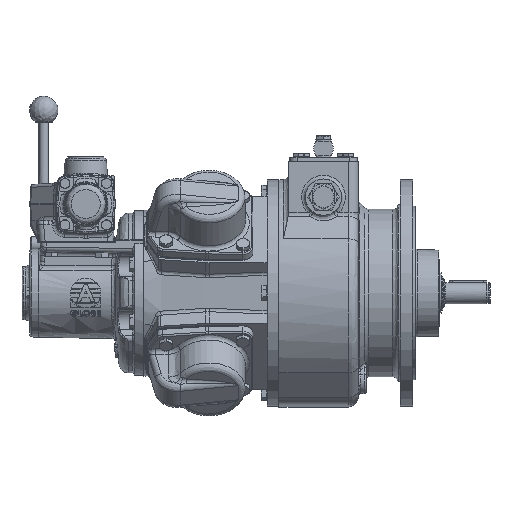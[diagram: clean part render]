
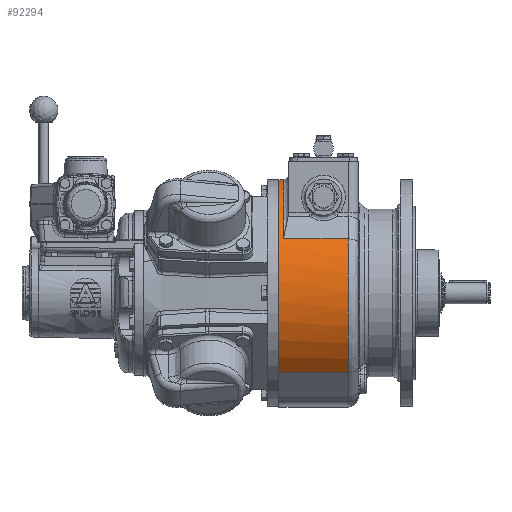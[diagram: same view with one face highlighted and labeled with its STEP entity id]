
A CAD part, top view. The second image highlights one B-rep face of the part: STEP entity #92294.
In plain terms, the highlighted cylindrical face has radius 151 mm (diameter 302 mm), a partial arc.
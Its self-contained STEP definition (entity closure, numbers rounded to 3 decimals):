
#1963 = CIRCLE ( 'NONE', #88761, 151. ) ;
#5958 = CIRCLE ( 'NONE', #80027, 151. ) ;
#11177 = DIRECTION ( 'NONE',  ( -1., 0., 0. ) ) ;
#12184 = CARTESIAN_POINT ( 'NONE',  ( 184.675, 0., 0. ) ) ;
#17144 = CIRCLE ( 'NONE', #184569, 151. ) ;
#18170 = CARTESIAN_POINT ( 'NONE',  ( 98.675, 0., 0. ) ) ;
#18568 = VERTEX_POINT ( 'NONE', #77731 ) ;
#19630 = EDGE_CURVE ( 'NONE', #57252, #28346, #117195, .T. ) ;
#19840 = DIRECTION ( 'NONE',  ( 0., -1., 0. ) ) ;
#21843 = EDGE_CURVE ( 'NONE', #18568, #57252, #183738, .T. ) ;
#22541 = CARTESIAN_POINT ( 'NONE',  ( 92.675, -105.718, -107.818 ) ) ;
#23396 = EDGE_LOOP ( 'NONE', ( #42318, #31428, #191029, #166922, #47638, #118590, #58545, #38815 ) ) ;
#26615 = CARTESIAN_POINT ( 'NONE',  ( 114.675, 71.651, 132.918 ) ) ;
#27842 = CARTESIAN_POINT ( 'NONE',  ( 114.675, 71.651, -132.918 ) ) ;
#28346 = VERTEX_POINT ( 'NONE', #46436 ) ;
#30412 = AXIS2_PLACEMENT_3D ( 'NONE', #12184, #11177, #69656 ) ;
#30432 = CARTESIAN_POINT ( 'NONE',  ( 114.675, 0., 0. ) ) ;
#31428 = ORIENTED_EDGE ( 'NONE', *, *, #19630, .T. ) ;
#32369 = EDGE_CURVE ( 'NONE', #126760, #121110, #132578, .T. ) ;
#34941 = CARTESIAN_POINT ( 'NONE',  ( 92.675, 0., 0. ) ) ;
#35826 = CARTESIAN_POINT ( 'NONE',  ( 184.675, 0., 0. ) ) ;
#38815 = ORIENTED_EDGE ( 'NONE', *, *, #107172, .F. ) ;
#40824 = CARTESIAN_POINT ( 'NONE',  ( 98.675, 71.651, 132.918 ) ) ;
#42318 = ORIENTED_EDGE ( 'NONE', *, *, #21843, .T. ) ;
#45739 = EDGE_CURVE ( 'NONE', #69470, #137822, #114919, .T. ) ;
#46436 = CARTESIAN_POINT ( 'NONE',  ( 184.675, 71.651, 132.918 ) ) ;
#47638 = ORIENTED_EDGE ( 'NONE', *, *, #32369, .T. ) ;
#49421 = VECTOR ( 'NONE', #106055, 1000. ) ;
#53857 = DIRECTION ( 'NONE',  ( -1., 0., 0. ) ) ;
#57252 = VERTEX_POINT ( 'NONE', #131779 ) ;
#58545 = ORIENTED_EDGE ( 'NONE', *, *, #45739, .F. ) ;
#65384 = VERTEX_POINT ( 'NONE', #40824 ) ;
#69470 = VERTEX_POINT ( 'NONE', #22541 ) ;
#69656 = DIRECTION ( 'NONE',  ( 0., 0., -1. ) ) ;
#77554 = DIRECTION ( 'NONE',  ( 0., 0., 1. ) ) ;
#77731 = CARTESIAN_POINT ( 'NONE',  ( 92.675, -105.718, 107.818 ) ) ;
#80027 = AXIS2_PLACEMENT_3D ( 'NONE', #35826, #53857, #115307 ) ;
#82467 = VECTOR ( 'NONE', #102146, 1000. ) ;
#88761 = AXIS2_PLACEMENT_3D ( 'NONE', #34941, #157832, #19840 ) ;
#92294 = ADVANCED_FACE ( 'NONE', ( #198660 ), #168385, .T. ) ;
#93559 = AXIS2_PLACEMENT_3D ( 'NONE', #30432, #183603, #136138 ) ;
#95599 = DIRECTION ( 'NONE',  ( -1., 0., 0. ) ) ;
#102146 = DIRECTION ( 'NONE',  ( 1., 0., 0. ) ) ;
#106055 = DIRECTION ( 'NONE',  ( 1., 0., 0. ) ) ;
#106431 = VECTOR ( 'NONE', #193202, 1000. ) ;
#107172 = EDGE_CURVE ( 'NONE', #18568, #69470, #1963, .T. ) ;
#114919 = LINE ( 'NONE', #174427, #131979 ) ;
#115307 = DIRECTION ( 'NONE',  ( 0., 0., -1. ) ) ;
#117195 = CIRCLE ( 'NONE', #30412, 151. ) ;
#118357 = CARTESIAN_POINT ( 'NONE',  ( 184.675, 71.651, -132.918 ) ) ;
#118590 = ORIENTED_EDGE ( 'NONE', *, *, #147011, .T. ) ;
#119606 = DIRECTION ( 'NONE',  ( 1., 0., 0. ) ) ;
#121110 = VERTEX_POINT ( 'NONE', #118357 ) ;
#126760 = VERTEX_POINT ( 'NONE', #169516 ) ;
#131779 = CARTESIAN_POINT ( 'NONE',  ( 184.675, -105.718, 107.818 ) ) ;
#131979 = VECTOR ( 'NONE', #119606, 1000. ) ;
#132578 = LINE ( 'NONE', #27842, #106431 ) ;
#134299 = LINE ( 'NONE', #26615, #82467 ) ;
#136138 = DIRECTION ( 'NONE',  ( 0., 1., 0. ) ) ;
#137276 = CARTESIAN_POINT ( 'NONE',  ( 114.675, -105.718, 107.818 ) ) ;
#137822 = VERTEX_POINT ( 'NONE', #168419 ) ;
#147011 = EDGE_CURVE ( 'NONE', #121110, #137822, #5958, .T. ) ;
#154393 = EDGE_CURVE ( 'NONE', #65384, #126760, #17144, .T. ) ;
#157832 = DIRECTION ( 'NONE',  ( -1., 0., 0. ) ) ;
#166922 = ORIENTED_EDGE ( 'NONE', *, *, #154393, .T. ) ;
#168385 = CYLINDRICAL_SURFACE ( 'NONE', #93559, 151. ) ;
#168419 = CARTESIAN_POINT ( 'NONE',  ( 184.675, -105.718, -107.818 ) ) ;
#169028 = EDGE_CURVE ( 'NONE', #65384, #28346, #134299, .T. ) ;
#169516 = CARTESIAN_POINT ( 'NONE',  ( 98.675, 71.651, -132.918 ) ) ;
#174427 = CARTESIAN_POINT ( 'NONE',  ( 114.675, -105.718, -107.818 ) ) ;
#183603 = DIRECTION ( 'NONE',  ( 1., 0., 0. ) ) ;
#183738 = LINE ( 'NONE', #137276, #49421 ) ;
#184569 = AXIS2_PLACEMENT_3D ( 'NONE', #18170, #95599, #77554 ) ;
#191029 = ORIENTED_EDGE ( 'NONE', *, *, #169028, .F. ) ;
#193202 = DIRECTION ( 'NONE',  ( 1., 0., 0. ) ) ;
#198660 = FACE_OUTER_BOUND ( 'NONE', #23396, .T. ) ;
